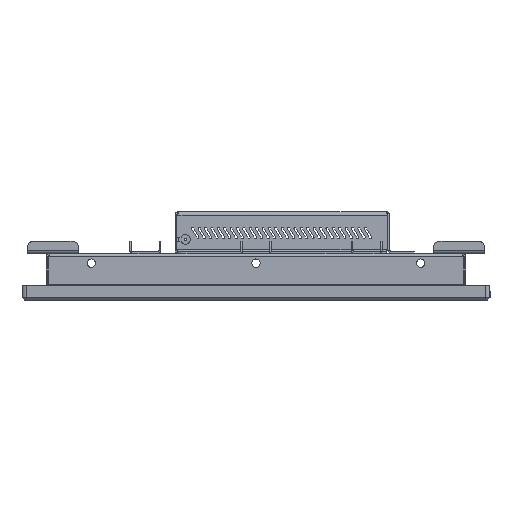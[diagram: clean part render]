
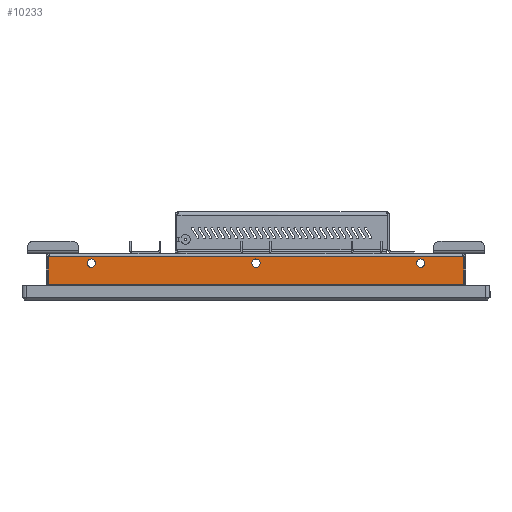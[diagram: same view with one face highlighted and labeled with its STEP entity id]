
A CAD part, left-side view. The second image highlights one B-rep face of the part: STEP entity #10233.
In plain terms, the highlighted planar face has unit normal (-1, 0, 0).
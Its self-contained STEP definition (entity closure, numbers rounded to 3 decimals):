
#10233=ADVANCED_FACE('',(#40830,#40832,#40834,#40836),#40838,.F.);
#40830=FACE_BOUND('',#40831,.T.);
#40831=EDGE_LOOP('',(#66286,#66287,#66288,#66289));
#40832=FACE_BOUND('',#40833,.T.);
#40833=EDGE_LOOP('',(#66290));
#40834=FACE_BOUND('',#40835,.T.);
#40835=EDGE_LOOP('',(#66291));
#40836=FACE_BOUND('',#40837,.T.);
#40837=EDGE_LOOP('',(#66292));
#40838=PLANE('',#40839);
#40839=AXIS2_PLACEMENT_3D('',#40840,#40841,#40842);
#40840=CARTESIAN_POINT('',(-131.9,181.5,265.796));
#40841=DIRECTION('',(1.,0.,0.));
#40842=DIRECTION('',(0.,0.,-1.));
#66286=ORIENTED_EDGE('',*,*,#81382,.T.);
#66287=ORIENTED_EDGE('',*,*,#84703,.T.);
#66288=ORIENTED_EDGE('',*,*,#84704,.T.);
#66289=ORIENTED_EDGE('',*,*,#84705,.T.);
#66290=ORIENTED_EDGE('',*,*,#84706,.T.);
#66291=ORIENTED_EDGE('',*,*,#84707,.T.);
#66292=ORIENTED_EDGE('',*,*,#84708,.T.);
#81382=EDGE_CURVE('',#91980,#91978,#91981,.T.);
#84703=EDGE_CURVE('',#91978,#97677,#97678,.T.);
#84704=EDGE_CURVE('',#97677,#97679,#97680,.T.);
#84705=EDGE_CURVE('',#97679,#91980,#97681,.T.);
#84706=EDGE_CURVE('',#97682,#97682,#97683,.T.);
#84707=EDGE_CURVE('',#97684,#97684,#97685,.T.);
#84708=EDGE_CURVE('',#97686,#97686,#97687,.T.);
#91978=VERTEX_POINT('',#111156);
#91980=VERTEX_POINT('',#111172);
#91981=LINE('',#111173,#111174);
#97677=VERTEX_POINT('',#124279);
#97678=LINE('',#124280,#124281);
#97679=VERTEX_POINT('',#124283);
#97680=LINE('',#124284,#124285);
#97681=LINE('',#124287,#124288);
#97682=VERTEX_POINT('',#124290);
#97683=CIRCLE('',#124291,3.05);
#97684=VERTEX_POINT('',#124295);
#97685=CIRCLE('',#124296,3.05);
#97686=VERTEX_POINT('',#124300);
#97687=CIRCLE('',#124301,3.05);
#111156=CARTESIAN_POINT('',(-131.9,322.446,79.));
#111172=CARTESIAN_POINT('',(-131.9,22.554,79.));
#111173=CARTESIAN_POINT('',(-131.9,22.554,79.));
#111174=VECTOR('',#111175,1.);
#111175=DIRECTION('',(0.,1.,0.));
#124279=CARTESIAN_POINT('',(-131.9,322.446,59.));
#124280=CARTESIAN_POINT('',(-131.9,322.446,79.));
#124281=VECTOR('',#124282,1.);
#124282=DIRECTION('',(0.,0.,-1.));
#124283=CARTESIAN_POINT('',(-131.9,22.554,59.));
#124284=CARTESIAN_POINT('',(-131.9,322.446,59.));
#124285=VECTOR('',#124286,1.);
#124286=DIRECTION('',(0.,-1.,0.));
#124287=CARTESIAN_POINT('',(-131.9,22.554,59.));
#124288=VECTOR('',#124289,1.);
#124289=DIRECTION('',(0.,0.,1.));
#124290=CARTESIAN_POINT('',(-131.9,56.55,74.3));
#124291=AXIS2_PLACEMENT_3D('',#124292,#124293,#124294);
#124292=CARTESIAN_POINT('',(-131.9,53.5,74.3));
#124293=DIRECTION('',(1.,0.,0.));
#124294=DIRECTION('',(0.,1.,0.));
#124295=CARTESIAN_POINT('',(-131.9,175.55,74.3));
#124296=AXIS2_PLACEMENT_3D('',#124297,#124298,#124299);
#124297=CARTESIAN_POINT('',(-131.9,172.5,74.3));
#124298=DIRECTION('',(1.,0.,0.));
#124299=DIRECTION('',(0.,1.,0.));
#124300=CARTESIAN_POINT('',(-131.9,294.55,74.3));
#124301=AXIS2_PLACEMENT_3D('',#124302,#124303,#124304);
#124302=CARTESIAN_POINT('',(-131.9,291.5,74.3));
#124303=DIRECTION('',(1.,0.,0.));
#124304=DIRECTION('',(0.,1.,0.));
